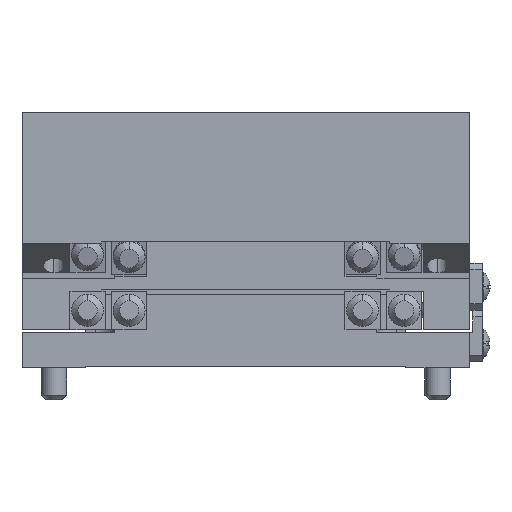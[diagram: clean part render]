
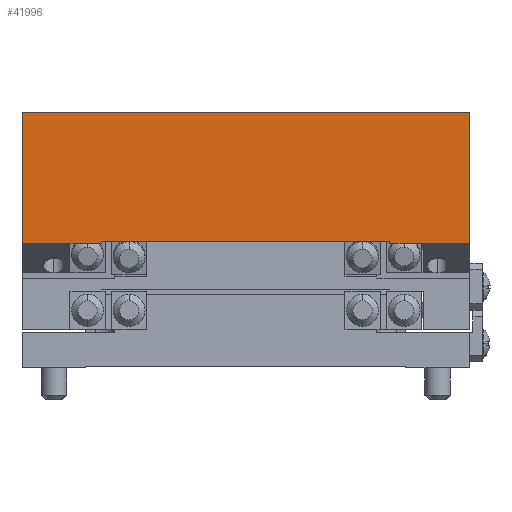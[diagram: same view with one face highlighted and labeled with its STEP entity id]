
A CAD part, left-side view. The second image highlights one B-rep face of the part: STEP entity #41996.
In plain terms, the highlighted planar face has unit normal (-1, 0, 0).
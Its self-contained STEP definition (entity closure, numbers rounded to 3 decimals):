
#1514 = ORIENTED_EDGE ( 'NONE', *, *, #41504, .F. ) ;
#1515 = ORIENTED_EDGE ( 'NONE', *, *, #41505, .T. ) ;
#1516 = ORIENTED_EDGE ( 'NONE', *, *, #41482, .F. ) ;
#1517 = ORIENTED_EDGE ( 'NONE', *, *, #41447, .T. ) ;
#1518 = ORIENTED_EDGE ( 'NONE', *, *, #41470, .T. ) ;
#1519 = ORIENTED_EDGE ( 'NONE', *, *, #41503, .F. ) ;
#1520 = ORIENTED_EDGE ( 'NONE', *, *, #41506, .F. ) ;
#1521 = ORIENTED_EDGE ( 'NONE', *, *, #41477, .T. ) ;
#1522 = ORIENTED_EDGE ( 'NONE', *, *, #41507, .T. ) ;
#1523 = ORIENTED_EDGE ( 'NONE', *, *, #41508, .T. ) ;
#7333 = CARTESIAN_POINT ( 'NONE',  ( -35., -35., 0. ) ) ;
#7348 = CARTESIAN_POINT ( 'NONE',  ( -35., 27.5, -20.515 ) ) ;
#7349 = CARTESIAN_POINT ( 'NONE',  ( -35., 22.5, -20.515 ) ) ;
#7358 = CARTESIAN_POINT ( 'NONE',  ( -35., -27.8, -20.515 ) ) ;
#7371 = CARTESIAN_POINT ( 'NONE',  ( -35., -22.5, -20.515 ) ) ;
#7433 = CARTESIAN_POINT ( 'NONE',  ( -35., 35., -20.515 ) ) ;
#7442 = CARTESIAN_POINT ( 'NONE',  ( -35., 22.5, -20.206 ) ) ;
#7443 = CARTESIAN_POINT ( 'NONE',  ( -35., -22.5, -20.206 ) ) ;
#15090 = LINE ( 'NONE', #15091, #50313 ) ;
#15091 = CARTESIAN_POINT ( 'NONE',  ( -35., -35., -26. ) ) ;
#15092 = DIRECTION ( 'NONE',  ( 0., 0., 1. ) ) ;
#15159 = LINE ( 'NONE', #15167, #50340 ) ;
#15167 = CARTESIAN_POINT ( 'NONE',  ( -35., 0., 0. ) ) ;
#15168 = DIRECTION ( 'NONE',  ( 0., 1., 0. ) ) ;
#15184 = LINE ( 'NONE', #15189, #50341 ) ;
#15189 = CARTESIAN_POINT ( 'NONE',  ( -35., 27.5, -20.515 ) ) ;
#15190 = DIRECTION ( 'NONE',  ( 0., -1., 0. ) ) ;
#15204 = LINE ( 'NONE', #15205, #50357 ) ;
#15205 = CARTESIAN_POINT ( 'NONE',  ( -35., -35., -20.515 ) ) ;
#15206 = DIRECTION ( 'NONE',  ( 0., 1., 0. ) ) ;
#15248 = LINE ( 'NONE', #15282, #50374 ) ;
#15270 = LINE ( 'NONE', #15271, #50376 ) ;
#15271 = CARTESIAN_POINT ( 'NONE',  ( -35., 35., -26. ) ) ;
#15272 = DIRECTION ( 'NONE',  ( 0., 0., 1. ) ) ;
#15273 = LINE ( 'NONE', #15274, #50377 ) ;
#15274 = CARTESIAN_POINT ( 'NONE',  ( -35., -22.5, -26. ) ) ;
#15275 = DIRECTION ( 'NONE',  ( 0., 0., 1. ) ) ;
#15276 = LINE ( 'NONE', #15277, #50378 ) ;
#15277 = CARTESIAN_POINT ( 'NONE',  ( -35., 27.5, -20.515 ) ) ;
#15278 = DIRECTION ( 'NONE',  ( 0., -1., 0. ) ) ;
#15279 = LINE ( 'NONE', #15280, #50379 ) ;
#15280 = CARTESIAN_POINT ( 'NONE',  ( -35., -35., -20.515 ) ) ;
#15281 = DIRECTION ( 'NONE',  ( 0., 1., 0. ) ) ;
#15282 = CARTESIAN_POINT ( 'NONE',  ( -35., 22.5, -26. ) ) ;
#15283 = DIRECTION ( 'NONE',  ( 0., 0., 1. ) ) ;
#15284 = LINE ( 'NONE', #15285, #50381 ) ;
#15285 = CARTESIAN_POINT ( 'NONE',  ( -35., 0., -20.206 ) ) ;
#15286 = DIRECTION ( 'NONE',  ( 0., -1., 0. ) ) ;
#25704 = CARTESIAN_POINT ( 'NONE',  ( -35., 0., -26. ) ) ;
#25715 = FACE_OUTER_BOUND ( 'NONE', #35958, .T. ) ;
#25716 = PLANE ( 'NONE',  #32963 ) ;
#25718 = DIRECTION ( 'NONE',  ( -1., 0., 0. ) ) ;
#25719 = DIRECTION ( 'NONE',  ( 0., 0., 1. ) ) ;
#32963 = AXIS2_PLACEMENT_3D ( 'NONE', #25704, #25718, #25719 ) ;
#35958 = EDGE_LOOP ( 'NONE', ( #1514, #1515, #1516, #1517, #1518, #1519, #1520, #1521, #1522, #1523 ) ) ;
#38526 = VERTEX_POINT ( 'NONE', #7333 ) ;
#38529 = VERTEX_POINT ( 'NONE', #7349 ) ;
#38531 = VERTEX_POINT ( 'NONE', #7348 ) ;
#38535 = VERTEX_POINT ( 'NONE', #7358 ) ;
#38540 = VERTEX_POINT ( 'NONE', #7371 ) ;
#38563 = VERTEX_POINT ( 'NONE', #7433 ) ;
#38564 = VERTEX_POINT ( 'NONE', #7443 ) ;
#38566 = VERTEX_POINT ( 'NONE', #7442 ) ;
#41447 = EDGE_CURVE ( 'NONE', #47812, #38526, #15090, .T. ) ;
#41470 = EDGE_CURVE ( 'NONE', #38526, #47806, #15159, .T. ) ;
#41477 = EDGE_CURVE ( 'NONE', #38531, #38529, #15184, .T. ) ;
#41482 = EDGE_CURVE ( 'NONE', #47812, #38535, #15204, .T. ) ;
#41503 = EDGE_CURVE ( 'NONE', #38563, #47806, #15270, .T. ) ;
#41504 = EDGE_CURVE ( 'NONE', #38540, #38564, #15273, .T. ) ;
#41505 = EDGE_CURVE ( 'NONE', #38540, #38535, #15276, .T. ) ;
#41506 = EDGE_CURVE ( 'NONE', #38531, #38563, #15279, .T. ) ;
#41507 = EDGE_CURVE ( 'NONE', #38529, #38566, #15248, .T. ) ;
#41508 = EDGE_CURVE ( 'NONE', #38566, #38564, #15284, .T. ) ;
#41996 = ADVANCED_FACE ( 'NONE', ( #25715 ), #25716, .T. ) ;
#43216 = CARTESIAN_POINT ( 'NONE',  ( -35., 35., 0. ) ) ;
#43222 = CARTESIAN_POINT ( 'NONE',  ( -35., -35., -20.515 ) ) ;
#47806 = VERTEX_POINT ( 'NONE', #43216 ) ;
#47812 = VERTEX_POINT ( 'NONE', #43222 ) ;
#50313 = VECTOR ( 'NONE', #15092, 1000. ) ;
#50340 = VECTOR ( 'NONE', #15168, 1000. ) ;
#50341 = VECTOR ( 'NONE', #15190, 1000. ) ;
#50357 = VECTOR ( 'NONE', #15206, 1000. ) ;
#50374 = VECTOR ( 'NONE', #15283, 1000. ) ;
#50376 = VECTOR ( 'NONE', #15272, 1000. ) ;
#50377 = VECTOR ( 'NONE', #15275, 1000. ) ;
#50378 = VECTOR ( 'NONE', #15278, 1000. ) ;
#50379 = VECTOR ( 'NONE', #15281, 1000. ) ;
#50381 = VECTOR ( 'NONE', #15286, 1000. ) ;
